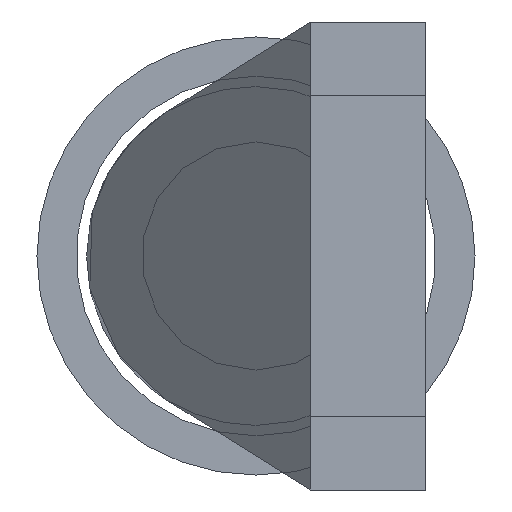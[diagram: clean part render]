
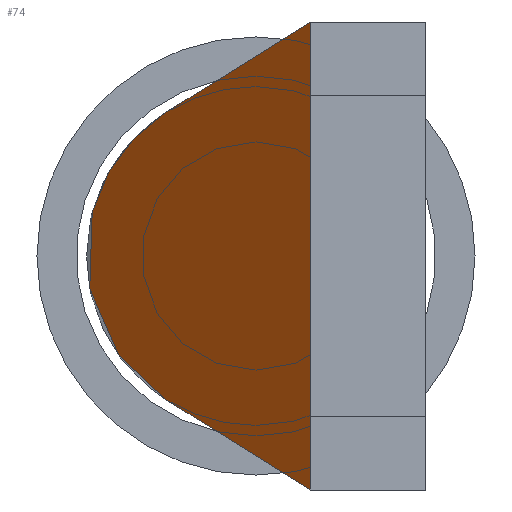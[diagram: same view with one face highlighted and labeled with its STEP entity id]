
A CAD part, left-side view. The second image highlights one B-rep face of the part: STEP entity #74.
In plain terms, the highlighted planar face has unit normal (-0.707, 0.707, 0) as drawn and (0.707, 0.707, 0) by its records, which use the part's own axes.
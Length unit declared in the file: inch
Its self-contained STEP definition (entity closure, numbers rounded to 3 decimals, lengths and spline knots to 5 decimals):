
#34 = VERTEX_POINT ( 'NONE', #460 ) ;
#58 = EDGE_CURVE ( 'NONE', #59, #34, #487, .T. ) ;
#59 = VERTEX_POINT ( 'NONE', #436 ) ;
#70 = ORIENTED_EDGE ( 'NONE', *, *, #71, .F. ) ;
#71 = EDGE_CURVE ( 'NONE', #72, #34, #511, .T. ) ;
#72 = VERTEX_POINT ( 'NONE', #507 ) ;
#73 = VERTEX_POINT ( 'NONE', #506 ) ;
#74 = ADVANCED_FACE ( 'NONE', ( #505 ), #473, .T. ) ;
#77 = EDGE_LOOP ( 'NONE', ( #78, #70, #79, #81 ) ) ;
#78 = ORIENTED_EDGE ( 'NONE', *, *, #58, .T. ) ;
#79 = ORIENTED_EDGE ( 'NONE', *, *, #80, .F. ) ;
#80 = EDGE_CURVE ( 'NONE', #73, #72, #464, .T. ) ;
#81 = ORIENTED_EDGE ( 'NONE', *, *, #82, .T. ) ;
#82 = EDGE_CURVE ( 'NONE', #73, #59, #517, .T. ) ;
#436 = CARTESIAN_POINT ( 'NONE',  ( -1.32511, 0.22511, -0.12453 ) ) ;
#460 = CARTESIAN_POINT ( 'NONE',  ( -1.32511, 0.22511, 0.12453 ) ) ;
#464 = LINE ( 'NONE', #520, #519 ) ;
#468 = DIRECTION ( 'NONE',  ( -0.707, 0.707, 0. ) ) ;
#469 = DIRECTION ( 'NONE',  ( 0.707, 0.707, 0. ) ) ;
#470 = CARTESIAN_POINT ( 'NONE',  ( -1.394, 0.294, -0.203 ) ) ;
#471 = AXIS2_PLACEMENT_3D ( 'NONE', #470, #469, #468 ) ;
#473 = PLANE ( 'NONE',  #471 ) ;
#483 = CARTESIAN_POINT ( 'NONE',  ( -1.32511, 0.22511, 0.12453 ) ) ;
#484 = CARTESIAN_POINT ( 'NONE',  ( -1.4274, 0.3274, 0.06037 ) ) ;
#485 = CARTESIAN_POINT ( 'NONE',  ( -1.4274, 0.3274, -0.06037 ) ) ;
#486 = CARTESIAN_POINT ( 'NONE',  ( -1.32511, 0.22511, -0.12453 ) ) ;
#487 =( BOUNDED_CURVE ( )  B_SPLINE_CURVE ( 3, ( #486, #485, #484, #483 ),
 .UNSPECIFIED., .F., .T. ) 
 B_SPLINE_CURVE_WITH_KNOTS ( ( 4, 4 ),
 ( 5.27257, 7.2938 ),
 .UNSPECIFIED. ) 
 CURVE ( )  GEOMETRIC_REPRESENTATION_ITEM ( )  RATIONAL_B_SPLINE_CURVE ( ( 1., 0.688, 0.688, 1. ) ) 
 REPRESENTATION_ITEM ( '' )  );
#505 = FACE_OUTER_BOUND ( 'NONE', #77, .T. ) ;
#506 = CARTESIAN_POINT ( 'NONE',  ( -1.2, 0.1, -0.203 ) ) ;
#507 = CARTESIAN_POINT ( 'NONE',  ( -1.2, 0.1, 0.203 ) ) ;
#508 = DIRECTION ( 'NONE',  ( -0.646, 0.646, -0.405 ) ) ;
#509 = VECTOR ( 'NONE', #508, 39.37008 ) ;
#510 = CARTESIAN_POINT ( 'NONE',  ( -1.46851, 0.36851, 0.03459 ) ) ;
#511 = LINE ( 'NONE', #510, #509 ) ;
#514 = DIRECTION ( 'NONE',  ( -0.646, 0.646, 0.405 ) ) ;
#515 = VECTOR ( 'NONE', #514, 39.37008 ) ;
#516 = CARTESIAN_POINT ( 'NONE',  ( -1.36211, 0.26211, -0.10132 ) ) ;
#517 = LINE ( 'NONE', #516, #515 ) ;
#518 = DIRECTION ( 'NONE',  ( 0., 0., 1. ) ) ;
#519 = VECTOR ( 'NONE', #518, 39.37008 ) ;
#520 = CARTESIAN_POINT ( 'NONE',  ( -1.2, 0.1, -0.203 ) ) ;
